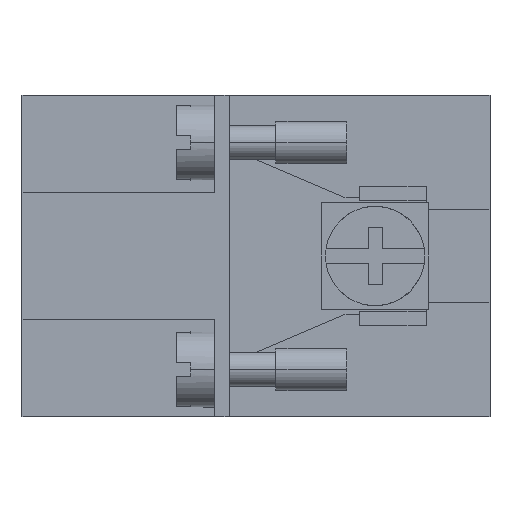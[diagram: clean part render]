
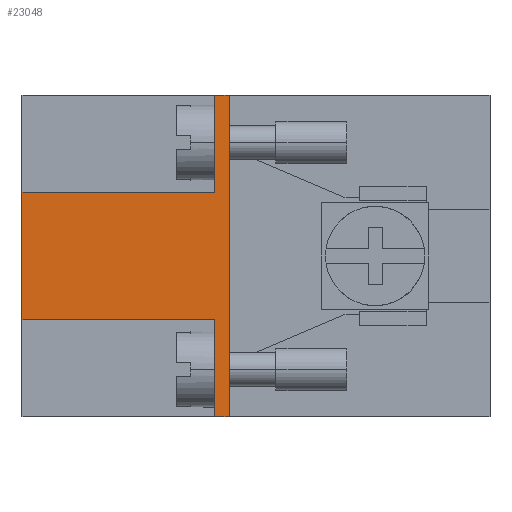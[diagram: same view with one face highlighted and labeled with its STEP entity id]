
A CAD part, left-side view. The second image highlights one B-rep face of the part: STEP entity #23048.
In plain terms, the highlighted planar face has unit normal (-1, 0, 0).
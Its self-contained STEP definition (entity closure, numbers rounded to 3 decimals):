
#80 = LINE ( 'NONE', #10851, #2044 ) ;
#113 = LINE ( 'NONE', #21960, #15661 ) ;
#713 = EDGE_CURVE ( 'NONE', #17945, #10934, #8012, .T. ) ;
#962 = EDGE_CURVE ( 'NONE', #14762, #19813, #1273, .T. ) ;
#1149 = EDGE_CURVE ( 'NONE', #13919, #17945, #3491, .T. ) ;
#1273 = LINE ( 'NONE', #6860, #10852 ) ;
#1640 = CARTESIAN_POINT ( 'NONE',  ( -36.2, -13.6, 11.35 ) ) ;
#1792 = EDGE_CURVE ( 'NONE', #19813, #10934, #80, .T. ) ;
#2044 = VECTOR ( 'NONE', #3513, 1000. ) ;
#2113 = VECTOR ( 'NONE', #22400, 1000. ) ;
#2889 = PLANE ( 'NONE',  #15249 ) ;
#3491 = LINE ( 'NONE', #8896, #21624 ) ;
#3513 = DIRECTION ( 'NONE',  ( 0., 0., -1. ) ) ;
#4006 = LINE ( 'NONE', #21990, #19029 ) ;
#4147 = ORIENTED_EDGE ( 'NONE', *, *, #11600, .F. ) ;
#4703 = CARTESIAN_POINT ( 'NONE',  ( -36.2, -14.6, -4.5 ) ) ;
#5182 = CARTESIAN_POINT ( 'NONE',  ( -36.2, -13.6, -4.5 ) ) ;
#5184 = VECTOR ( 'NONE', #22818, 1000. ) ;
#5272 = CARTESIAN_POINT ( 'NONE',  ( -36.2, -14.6, -11.35 ) ) ;
#5392 = ORIENTED_EDGE ( 'NONE', *, *, #1792, .T. ) ;
#6860 = CARTESIAN_POINT ( 'NONE',  ( -36.2, -14.6, 4.5 ) ) ;
#7345 = CARTESIAN_POINT ( 'NONE',  ( -36.2, -13.6, 4.5 ) ) ;
#7729 = VERTEX_POINT ( 'NONE', #5272 ) ;
#8012 = LINE ( 'NONE', #12418, #2113 ) ;
#8896 = CARTESIAN_POINT ( 'NONE',  ( -36.2, -13.6, 11.35 ) ) ;
#9109 = LINE ( 'NONE', #15247, #5184 ) ;
#9362 = VERTEX_POINT ( 'NONE', #15159 ) ;
#9395 = DIRECTION ( 'NONE',  ( 0., 0., 1. ) ) ;
#9644 = ORIENTED_EDGE ( 'NONE', *, *, #19802, .F. ) ;
#10461 = ORIENTED_EDGE ( 'NONE', *, *, #1149, .F. ) ;
#10851 = CARTESIAN_POINT ( 'NONE',  ( -36.2, 0., -4.5 ) ) ;
#10852 = VECTOR ( 'NONE', #13823, 1000. ) ;
#10934 = VERTEX_POINT ( 'NONE', #23469 ) ;
#11196 = ORIENTED_EDGE ( 'NONE', *, *, #17439, .T. ) ;
#11600 = EDGE_CURVE ( 'NONE', #13816, #9362, #113, .T. ) ;
#12418 = CARTESIAN_POINT ( 'NONE',  ( -36.2, -14.6, -4.5 ) ) ;
#12752 = DIRECTION ( 'NONE',  ( 0., -1., 0. ) ) ;
#13188 = ORIENTED_EDGE ( 'NONE', *, *, #20340, .F. ) ;
#13612 = EDGE_LOOP ( 'NONE', ( #9644, #4147, #13188, #21579, #5392, #18385, #10461, #11196 ) ) ;
#13816 = VERTEX_POINT ( 'NONE', #15243 ) ;
#13823 = DIRECTION ( 'NONE',  ( 0., 1., 0. ) ) ;
#13919 = VERTEX_POINT ( 'NONE', #15487 ) ;
#14762 = VERTEX_POINT ( 'NONE', #7345 ) ;
#14950 = DIRECTION ( 'NONE',  ( 1., 0., 0. ) ) ;
#15159 = CARTESIAN_POINT ( 'NONE',  ( -36.2, -14.6, 11.35 ) ) ;
#15243 = CARTESIAN_POINT ( 'NONE',  ( -36.2, -13.6, 11.35 ) ) ;
#15247 = CARTESIAN_POINT ( 'NONE',  ( -36.2, -13.6, -11.35 ) ) ;
#15249 = AXIS2_PLACEMENT_3D ( 'NONE', #4703, #14950, #15450 ) ;
#15450 = DIRECTION ( 'NONE',  ( 0., 1., 0. ) ) ;
#15487 = CARTESIAN_POINT ( 'NONE',  ( -36.2, -13.6, -11.35 ) ) ;
#15661 = VECTOR ( 'NONE', #12752, 1000. ) ;
#15869 = LINE ( 'NONE', #1640, #20146 ) ;
#17439 = EDGE_CURVE ( 'NONE', #13919, #7729, #9109, .T. ) ;
#17945 = VERTEX_POINT ( 'NONE', #5182 ) ;
#18258 = CARTESIAN_POINT ( 'NONE',  ( -36.2, 0., 4.5 ) ) ;
#18385 = ORIENTED_EDGE ( 'NONE', *, *, #713, .F. ) ;
#19029 = VECTOR ( 'NONE', #20162, 1000. ) ;
#19151 = FACE_OUTER_BOUND ( 'NONE', #13612, .T. ) ;
#19802 = EDGE_CURVE ( 'NONE', #9362, #7729, #4006, .T. ) ;
#19813 = VERTEX_POINT ( 'NONE', #18258 ) ;
#20146 = VECTOR ( 'NONE', #9395, 1000. ) ;
#20162 = DIRECTION ( 'NONE',  ( 0., 0., -1. ) ) ;
#20340 = EDGE_CURVE ( 'NONE', #14762, #13816, #15869, .T. ) ;
#21579 = ORIENTED_EDGE ( 'NONE', *, *, #962, .T. ) ;
#21590 = DIRECTION ( 'NONE',  ( 0., 0., 1. ) ) ;
#21624 = VECTOR ( 'NONE', #21590, 1000. ) ;
#21960 = CARTESIAN_POINT ( 'NONE',  ( -36.2, -13.6, 11.35 ) ) ;
#21990 = CARTESIAN_POINT ( 'NONE',  ( -36.2, -14.6, -4.5 ) ) ;
#22400 = DIRECTION ( 'NONE',  ( 0., 1., 0. ) ) ;
#22818 = DIRECTION ( 'NONE',  ( 0., -1., 0. ) ) ;
#23048 = ADVANCED_FACE ( 'NONE', ( #19151 ), #2889, .F. ) ;
#23469 = CARTESIAN_POINT ( 'NONE',  ( -36.2, 0., -4.5 ) ) ;
